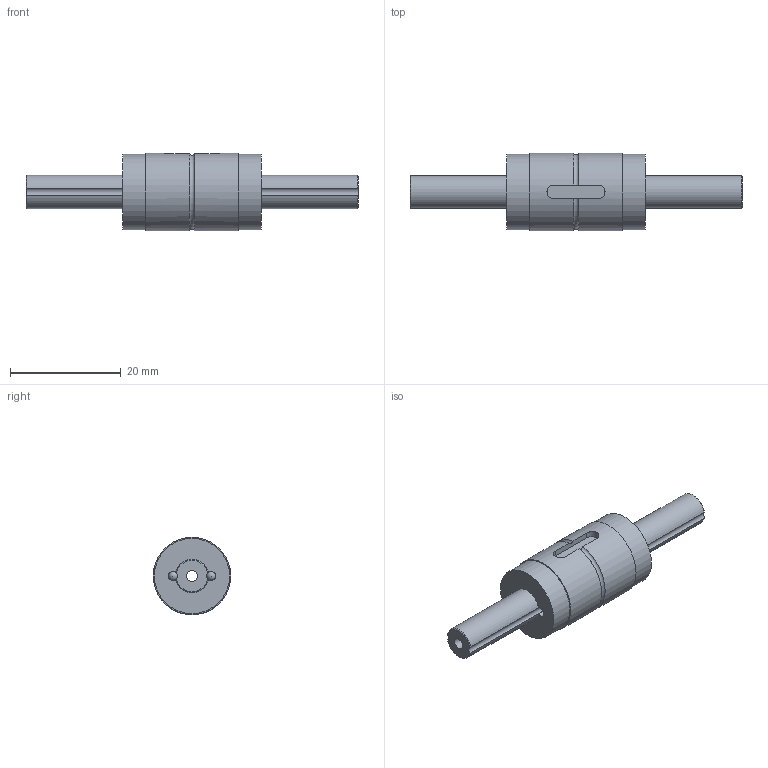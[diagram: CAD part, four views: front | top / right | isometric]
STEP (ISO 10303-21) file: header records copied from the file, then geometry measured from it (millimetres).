
FILE_DESCRIPTION(/* description */ ('Unknown'),/* implementation_level */ '2;1');
FILE_NAME(/* name */ 'TLT006-D1-L60',/* time_stamp */ '2024-12-23T10:09:24+08:00',/* author */ ('Unknown'),/* organization */ ('Unknown'),/* preprocessor_version */ 'ST-DEVELOPER v18.102',/* originating_system */ 'Solid Edge',/* authorisation */ 'Unknown');
FILE_SCHEMA (('AUTOMOTIVE_DESIGN {1 0 10303 214 3 1 1}'));
Length unit declared in the file: millimetre
Products named in the file (3): TLT006-D1-L60; TLT006-D1-xxxx; TLT006
Assembly tree (2 placements, depth 2):
  TLT006-D1-L60
    TLT006-D1-xxxx
    TLT006
Bounding box: 60 x 14 x 14 mm (x, y, z)
Volume: 4426 mm3; surface area: 3634.7 mm2
Topology: 2 solids, 2 shells, 41 faces, 182 edges, 120 vertices
Faces by surface type: cylinder 16, sphere 10, plane 9, cone 4, torus 2
Full cylindrical faces by diameter (mm): 1 x1, 2 x1, 13.6 x2, 14 x2
Entity records: 1966 total; most frequent: CARTESIAN_POINT 670, ORIENTED_EDGE 274, DIRECTION 210, EDGE_CURVE 137, VERTEX_POINT 97, AXIS2_PLACEMENT_3D 86, EDGE_LOOP 80, FACE_BOUND 80
